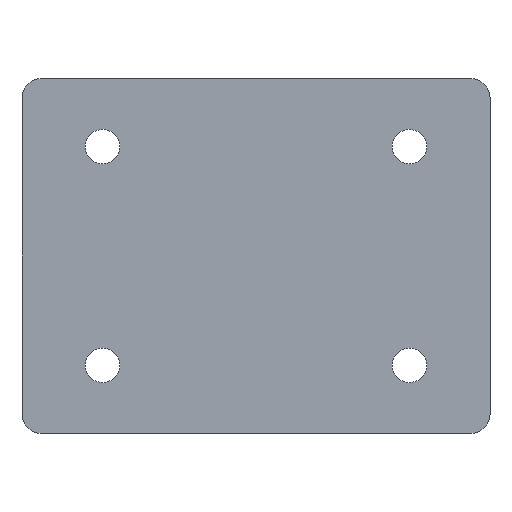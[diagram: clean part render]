
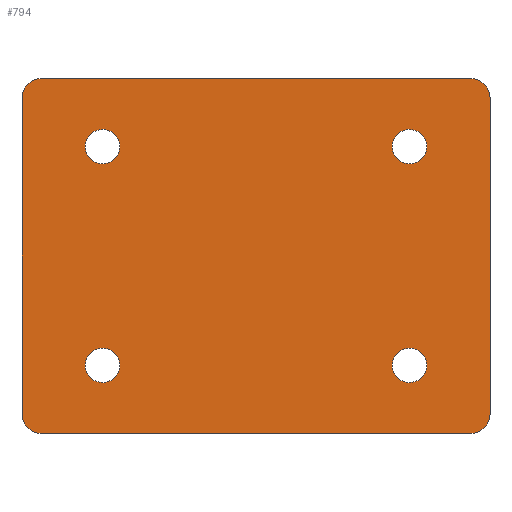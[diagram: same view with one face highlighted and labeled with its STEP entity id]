
A CAD part, front view. The second image highlights one B-rep face of the part: STEP entity #794.
In plain terms, the highlighted planar face has unit normal (0, -1, 0).
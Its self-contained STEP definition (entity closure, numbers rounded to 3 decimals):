
#9 = AXIS2_PLACEMENT_3D ( 'NONE', #884, #1069, #1242 ) ;
#22 = DIRECTION ( 'NONE',  ( 0., 1., 0. ) ) ;
#69 = CARTESIAN_POINT ( 'NONE',  ( -40., 0., 33. ) ) ;
#74 = AXIS2_PLACEMENT_3D ( 'NONE', #1320, #492, #830 ) ;
#91 = CIRCLE ( 'NONE', #507, 4.5 ) ;
#104 = ORIENTED_EDGE ( 'NONE', *, *, #1137, .T. ) ;
#111 = EDGE_LOOP ( 'NONE', ( #347, #1102, #323, #1022, #490, #405, #1091, #353 ) ) ;
#118 = VERTEX_POINT ( 'NONE', #358 ) ;
#123 = ORIENTED_EDGE ( 'NONE', *, *, #1175, .T. ) ;
#135 = CARTESIAN_POINT ( 'NONE',  ( -61., 0., 46.25 ) ) ;
#137 = EDGE_CURVE ( 'NONE', #209, #535, #262, .T. ) ;
#176 = VERTEX_POINT ( 'NONE', #1379 ) ;
#185 = VECTOR ( 'NONE', #258, 1000. ) ;
#195 = ORIENTED_EDGE ( 'NONE', *, *, #617, .T. ) ;
#209 = VERTEX_POINT ( 'NONE', #1101 ) ;
#214 = EDGE_CURVE ( 'NONE', #251, #248, #91, .T. ) ;
#248 = VERTEX_POINT ( 'NONE', #69 ) ;
#251 = VERTEX_POINT ( 'NONE', #1052 ) ;
#258 = DIRECTION ( 'NONE',  ( 0., 0., 1. ) ) ;
#261 = DIRECTION ( 'NONE',  ( 0., -1., 0. ) ) ;
#262 = LINE ( 'NONE', #758, #1149 ) ;
#265 = EDGE_LOOP ( 'NONE', ( #123, #321 ) ) ;
#274 = AXIS2_PLACEMENT_3D ( 'NONE', #580, #908, #530 ) ;
#287 = CARTESIAN_POINT ( 'NONE',  ( -40., 0., -28.5 ) ) ;
#298 = CARTESIAN_POINT ( 'NONE',  ( -40., 0., -33. ) ) ;
#307 = CARTESIAN_POINT ( 'NONE',  ( -61., 0., -41.25 ) ) ;
#310 = CIRCLE ( 'NONE', #903, 5. ) ;
#312 = CIRCLE ( 'NONE', #1409, 4.5 ) ;
#321 = ORIENTED_EDGE ( 'NONE', *, *, #342, .T. ) ;
#322 = ORIENTED_EDGE ( 'NONE', *, *, #1012, .T. ) ;
#323 = ORIENTED_EDGE ( 'NONE', *, *, #137, .F. ) ;
#342 = EDGE_CURVE ( 'NONE', #642, #402, #594, .T. ) ;
#345 = DIRECTION ( 'NONE',  ( 0., 1., 0. ) ) ;
#347 = ORIENTED_EDGE ( 'NONE', *, *, #1040, .F. ) ;
#348 = AXIS2_PLACEMENT_3D ( 'NONE', #876, #603, #1041 ) ;
#353 = ORIENTED_EDGE ( 'NONE', *, *, #897, .T. ) ;
#358 = CARTESIAN_POINT ( 'NONE',  ( -56., 0., -46.25 ) ) ;
#365 = DIRECTION ( 'NONE',  ( 0., 1., 0. ) ) ;
#368 = CARTESIAN_POINT ( 'NONE',  ( -56., 0., -41.25 ) ) ;
#370 = CARTESIAN_POINT ( 'NONE',  ( 40., 0., -28.5 ) ) ;
#402 = VERTEX_POINT ( 'NONE', #673 ) ;
#405 = ORIENTED_EDGE ( 'NONE', *, *, #880, .T. ) ;
#414 = EDGE_CURVE ( 'NONE', #981, #1300, #1017, .T. ) ;
#459 = EDGE_CURVE ( 'NONE', #517, #176, #1171, .T. ) ;
#472 = CARTESIAN_POINT ( 'NONE',  ( -40., 0., -24. ) ) ;
#490 = ORIENTED_EDGE ( 'NONE', *, *, #459, .F. ) ;
#492 = DIRECTION ( 'NONE',  ( 0., 1., 0. ) ) ;
#501 = VERTEX_POINT ( 'NONE', #298 ) ;
#506 = EDGE_LOOP ( 'NONE', ( #104, #1340 ) ) ;
#507 = AXIS2_PLACEMENT_3D ( 'NONE', #861, #22, #1162 ) ;
#512 = DIRECTION ( 'NONE',  ( 0., 0., 1. ) ) ;
#517 = VERTEX_POINT ( 'NONE', #827 ) ;
#519 = VERTEX_POINT ( 'NONE', #693 ) ;
#530 = DIRECTION ( 'NONE',  ( 0., 0., 1. ) ) ;
#535 = VERTEX_POINT ( 'NONE', #1248 ) ;
#539 = EDGE_CURVE ( 'NONE', #209, #176, #310, .T. ) ;
#548 = EDGE_LOOP ( 'NONE', ( #322, #658 ) ) ;
#550 = AXIS2_PLACEMENT_3D ( 'NONE', #370, #917, #512 ) ;
#552 = FACE_BOUND ( 'NONE', #548, .T. ) ;
#578 = DIRECTION ( 'NONE',  ( 0., 0., 1. ) ) ;
#580 = CARTESIAN_POINT ( 'NONE',  ( -40., 0., -28.5 ) ) ;
#584 = CARTESIAN_POINT ( 'NONE',  ( 0., 0., 0. ) ) ;
#594 = CIRCLE ( 'NONE', #657, 4.5 ) ;
#603 = DIRECTION ( 'NONE',  ( 0., 1., 0. ) ) ;
#617 = EDGE_CURVE ( 'NONE', #248, #251, #1007, .T. ) ;
#622 = DIRECTION ( 'NONE',  ( 0., 0., 1. ) ) ;
#634 = LINE ( 'NONE', #135, #185 ) ;
#642 = VERTEX_POINT ( 'NONE', #1276 ) ;
#644 = DIRECTION ( 'NONE',  ( -1., 0., 0. ) ) ;
#657 = AXIS2_PLACEMENT_3D ( 'NONE', #1193, #1201, #1203 ) ;
#658 = ORIENTED_EDGE ( 'NONE', *, *, #414, .T. ) ;
#660 = CARTESIAN_POINT ( 'NONE',  ( 61., 0., 46.25 ) ) ;
#673 = CARTESIAN_POINT ( 'NONE',  ( 40., 0., -24. ) ) ;
#685 = FACE_BOUND ( 'NONE', #265, .T. ) ;
#693 = CARTESIAN_POINT ( 'NONE',  ( 56., 0., -46.25 ) ) ;
#703 = PLANE ( 'NONE',  #815 ) ;
#704 = VECTOR ( 'NONE', #644, 1000. ) ;
#717 = EDGE_LOOP ( 'NONE', ( #195, #786 ) ) ;
#724 = VERTEX_POINT ( 'NONE', #307 ) ;
#729 = CIRCLE ( 'NONE', #550, 4.5 ) ;
#747 = DIRECTION ( 'NONE',  ( 0., 0., 1. ) ) ;
#758 = CARTESIAN_POINT ( 'NONE',  ( 61., 0., 46.25 ) ) ;
#786 = ORIENTED_EDGE ( 'NONE', *, *, #214, .T. ) ;
#794 = ADVANCED_FACE ( 'NONE', ( #685, #552, #1395, #1331, #1185 ), #703, .F. ) ;
#815 = AXIS2_PLACEMENT_3D ( 'NONE', #584, #345, #986 ) ;
#827 = CARTESIAN_POINT ( 'NONE',  ( -56., 0., 46.25 ) ) ;
#830 = DIRECTION ( 'NONE',  ( 0., 0., 1. ) ) ;
#856 = VERTEX_POINT ( 'NONE', #867 ) ;
#861 = CARTESIAN_POINT ( 'NONE',  ( -40., 0., 28.5 ) ) ;
#867 = CARTESIAN_POINT ( 'NONE',  ( -61., 0., 41.25 ) ) ;
#876 = CARTESIAN_POINT ( 'NONE',  ( 40., 0., 28.5 ) ) ;
#880 = EDGE_CURVE ( 'NONE', #517, #856, #912, .T. ) ;
#884 = CARTESIAN_POINT ( 'NONE',  ( -40., 0., 28.5 ) ) ;
#890 = EDGE_CURVE ( 'NONE', #519, #535, #1261, .T. ) ;
#897 = EDGE_CURVE ( 'NONE', #724, #118, #1085, .T. ) ;
#903 = AXIS2_PLACEMENT_3D ( 'NONE', #933, #1087, #1115 ) ;
#908 = DIRECTION ( 'NONE',  ( 0., 1., 0. ) ) ;
#912 = CIRCLE ( 'NONE', #1246, 5. ) ;
#917 = DIRECTION ( 'NONE',  ( 0., 1., 0. ) ) ;
#933 = CARTESIAN_POINT ( 'NONE',  ( 56., 0., 41.25 ) ) ;
#939 = VECTOR ( 'NONE', #1354, 1000. ) ;
#943 = LINE ( 'NONE', #1134, #704 ) ;
#961 = DIRECTION ( 'NONE',  ( 0., -1., 0. ) ) ;
#981 = VERTEX_POINT ( 'NONE', #1172 ) ;
#986 = DIRECTION ( 'NONE',  ( 0., 0., 1. ) ) ;
#996 = DIRECTION ( 'NONE',  ( 0., 0., 1. ) ) ;
#999 = EDGE_CURVE ( 'NONE', #501, #1003, #1249, .T. ) ;
#1003 = VERTEX_POINT ( 'NONE', #472 ) ;
#1007 = CIRCLE ( 'NONE', #9, 4.5 ) ;
#1012 = EDGE_CURVE ( 'NONE', #1300, #981, #1254, .T. ) ;
#1017 = CIRCLE ( 'NONE', #74, 4.5 ) ;
#1022 = ORIENTED_EDGE ( 'NONE', *, *, #539, .T. ) ;
#1040 = EDGE_CURVE ( 'NONE', #519, #118, #943, .T. ) ;
#1041 = DIRECTION ( 'NONE',  ( 0., 0., 1. ) ) ;
#1044 = CARTESIAN_POINT ( 'NONE',  ( 56., 0., -41.25 ) ) ;
#1052 = CARTESIAN_POINT ( 'NONE',  ( -40., 0., 24. ) ) ;
#1069 = DIRECTION ( 'NONE',  ( 0., 1., 0. ) ) ;
#1085 = CIRCLE ( 'NONE', #1129, 5. ) ;
#1087 = DIRECTION ( 'NONE',  ( 0., -1., 0. ) ) ;
#1091 = ORIENTED_EDGE ( 'NONE', *, *, #1291, .F. ) ;
#1099 = DIRECTION ( 'NONE',  ( 0., 0., -1. ) ) ;
#1101 = CARTESIAN_POINT ( 'NONE',  ( 61., 0., 41.25 ) ) ;
#1102 = ORIENTED_EDGE ( 'NONE', *, *, #890, .T. ) ;
#1110 = CARTESIAN_POINT ( 'NONE',  ( 40., 0., 33. ) ) ;
#1115 = DIRECTION ( 'NONE',  ( 0., 0., 1. ) ) ;
#1129 = AXIS2_PLACEMENT_3D ( 'NONE', #368, #261, #578 ) ;
#1134 = CARTESIAN_POINT ( 'NONE',  ( 61., 0., -46.25 ) ) ;
#1137 = EDGE_CURVE ( 'NONE', #1003, #501, #312, .T. ) ;
#1149 = VECTOR ( 'NONE', #1099, 1000. ) ;
#1162 = DIRECTION ( 'NONE',  ( 0., 0., 1. ) ) ;
#1171 = LINE ( 'NONE', #660, #939 ) ;
#1172 = CARTESIAN_POINT ( 'NONE',  ( 40., 0., 24. ) ) ;
#1175 = EDGE_CURVE ( 'NONE', #402, #642, #729, .T. ) ;
#1181 = AXIS2_PLACEMENT_3D ( 'NONE', #1044, #1406, #996 ) ;
#1185 = FACE_OUTER_BOUND ( 'NONE', #111, .T. ) ;
#1193 = CARTESIAN_POINT ( 'NONE',  ( 40., 0., -28.5 ) ) ;
#1201 = DIRECTION ( 'NONE',  ( 0., 1., 0. ) ) ;
#1203 = DIRECTION ( 'NONE',  ( 0., 0., 1. ) ) ;
#1242 = DIRECTION ( 'NONE',  ( 0., 0., 1. ) ) ;
#1246 = AXIS2_PLACEMENT_3D ( 'NONE', #1278, #961, #747 ) ;
#1248 = CARTESIAN_POINT ( 'NONE',  ( 61., 0., -41.25 ) ) ;
#1249 = CIRCLE ( 'NONE', #274, 4.5 ) ;
#1254 = CIRCLE ( 'NONE', #348, 4.5 ) ;
#1261 = CIRCLE ( 'NONE', #1181, 5. ) ;
#1276 = CARTESIAN_POINT ( 'NONE',  ( 40., 0., -33. ) ) ;
#1278 = CARTESIAN_POINT ( 'NONE',  ( -56., 0., 41.25 ) ) ;
#1291 = EDGE_CURVE ( 'NONE', #724, #856, #634, .T. ) ;
#1300 = VERTEX_POINT ( 'NONE', #1110 ) ;
#1320 = CARTESIAN_POINT ( 'NONE',  ( 40., 0., 28.5 ) ) ;
#1331 = FACE_BOUND ( 'NONE', #506, .T. ) ;
#1340 = ORIENTED_EDGE ( 'NONE', *, *, #999, .T. ) ;
#1354 = DIRECTION ( 'NONE',  ( 1., 0., 0. ) ) ;
#1379 = CARTESIAN_POINT ( 'NONE',  ( 56., 0., 46.25 ) ) ;
#1395 = FACE_BOUND ( 'NONE', #717, .T. ) ;
#1406 = DIRECTION ( 'NONE',  ( 0., -1., 0. ) ) ;
#1409 = AXIS2_PLACEMENT_3D ( 'NONE', #287, #365, #622 ) ;
